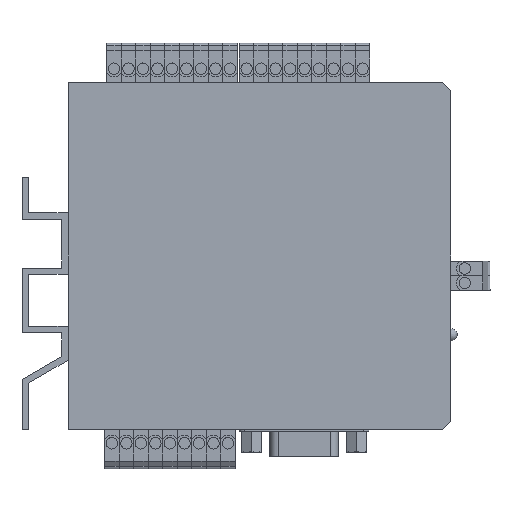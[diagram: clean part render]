
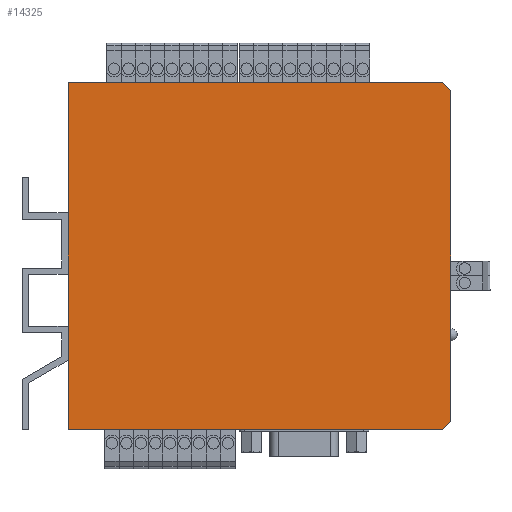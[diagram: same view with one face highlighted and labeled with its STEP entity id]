
A CAD part, left-side view. The second image highlights one B-rep face of the part: STEP entity #14325.
In plain terms, the highlighted planar face has unit normal (-1, 0, 0).
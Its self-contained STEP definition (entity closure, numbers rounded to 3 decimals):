
#540 = CARTESIAN_POINT ( 'NONE',  ( -11.25, 0., 41.25 ) ) ;
#2260 = CARTESIAN_POINT ( 'NONE',  ( -11.25, 45.5, -41.25 ) ) ;
#3733 = CARTESIAN_POINT ( 'NONE',  ( -11.25, -43.5, -41.25 ) ) ;
#3793 = DIRECTION ( 'NONE',  ( 0., -0.707, 0.707 ) ) ;
#4444 = CARTESIAN_POINT ( 'NONE',  ( -11.25, -45.5, -41.25 ) ) ;
#5975 = EDGE_CURVE ( 'NONE', #18856, #22226, #13784, .T. ) ;
#6259 = ORIENTED_EDGE ( 'NONE', *, *, #22000, .T. ) ;
#7958 = DIRECTION ( 'NONE',  ( 0., -1., 0. ) ) ;
#8226 = DIRECTION ( 'NONE',  ( 0., 0., 1. ) ) ;
#8476 = CARTESIAN_POINT ( 'NONE',  ( -11.25, -43.5, -41.25 ) ) ;
#10977 = LINE ( 'NONE', #4444, #30052 ) ;
#12538 = ORIENTED_EDGE ( 'NONE', *, *, #35357, .T. ) ;
#12590 = VECTOR ( 'NONE', #3793, 1000. ) ;
#13411 = CARTESIAN_POINT ( 'NONE',  ( -11.25, 0., -41.25 ) ) ;
#13784 = LINE ( 'NONE', #3733, #12590 ) ;
#13941 = DIRECTION ( 'NONE',  ( 0., 0., -1. ) ) ;
#14325 = ADVANCED_FACE ( 'NONE', ( #23634 ), #33277, .T. ) ;
#14350 = LINE ( 'NONE', #540, #24418 ) ;
#14505 = ORIENTED_EDGE ( 'NONE', *, *, #5975, .T. ) ;
#15594 = VERTEX_POINT ( 'NONE', #36971 ) ;
#16586 = DIRECTION ( 'NONE',  ( 0., 0., 1. ) ) ;
#16836 = VERTEX_POINT ( 'NONE', #32223 ) ;
#18856 = VERTEX_POINT ( 'NONE', #8476 ) ;
#19144 = ORIENTED_EDGE ( 'NONE', *, *, #35118, .T. ) ;
#20198 = VECTOR ( 'NONE', #13941, 1000. ) ;
#22000 = EDGE_CURVE ( 'NONE', #15594, #16836, #23643, .T. ) ;
#22226 = VERTEX_POINT ( 'NONE', #39557 ) ;
#22844 = VECTOR ( 'NONE', #7958, 1000. ) ;
#23634 = FACE_OUTER_BOUND ( 'NONE', #31012, .T. ) ;
#23643 = LINE ( 'NONE', #40827, #32612 ) ;
#24363 = VERTEX_POINT ( 'NONE', #2260 ) ;
#24418 = VECTOR ( 'NONE', #42173, 1000. ) ;
#25618 = ORIENTED_EDGE ( 'NONE', *, *, #41996, .T. ) ;
#27636 = CARTESIAN_POINT ( 'NONE',  ( -11.25, 45.5, 41.25 ) ) ;
#29802 = DIRECTION ( 'NONE',  ( -1., 0., 0. ) ) ;
#30052 = VECTOR ( 'NONE', #8226, 1000. ) ;
#30378 = LINE ( 'NONE', #40515, #20198 ) ;
#31012 = EDGE_LOOP ( 'NONE', ( #12538, #25618, #14505, #45371, #6259, #19144 ) ) ;
#31561 = EDGE_CURVE ( 'NONE', #22226, #15594, #10977, .T. ) ;
#32223 = CARTESIAN_POINT ( 'NONE',  ( -11.25, -43.5, 41.25 ) ) ;
#32612 = VECTOR ( 'NONE', #37046, 1000. ) ;
#33277 = PLANE ( 'NONE',  #40953 ) ;
#35118 = EDGE_CURVE ( 'NONE', #16836, #46690, #14350, .T. ) ;
#35357 = EDGE_CURVE ( 'NONE', #46690, #24363, #30378, .T. ) ;
#36971 = CARTESIAN_POINT ( 'NONE',  ( -11.25, -45.5, 39.25 ) ) ;
#37046 = DIRECTION ( 'NONE',  ( 0., 0.707, 0.707 ) ) ;
#39557 = CARTESIAN_POINT ( 'NONE',  ( -11.25, -45.5, -39.25 ) ) ;
#40515 = CARTESIAN_POINT ( 'NONE',  ( -11.25, 45.5, -41.25 ) ) ;
#40827 = CARTESIAN_POINT ( 'NONE',  ( -11.25, -45.5, 39.25 ) ) ;
#40953 = AXIS2_PLACEMENT_3D ( 'NONE', #13411, #29802, #16586 ) ;
#41945 = CARTESIAN_POINT ( 'NONE',  ( -11.25, 0., -41.25 ) ) ;
#41996 = EDGE_CURVE ( 'NONE', #24363, #18856, #43066, .T. ) ;
#42173 = DIRECTION ( 'NONE',  ( 0., 1., 0. ) ) ;
#43066 = LINE ( 'NONE', #41945, #22844 ) ;
#45371 = ORIENTED_EDGE ( 'NONE', *, *, #31561, .T. ) ;
#46690 = VERTEX_POINT ( 'NONE', #27636 ) ;
